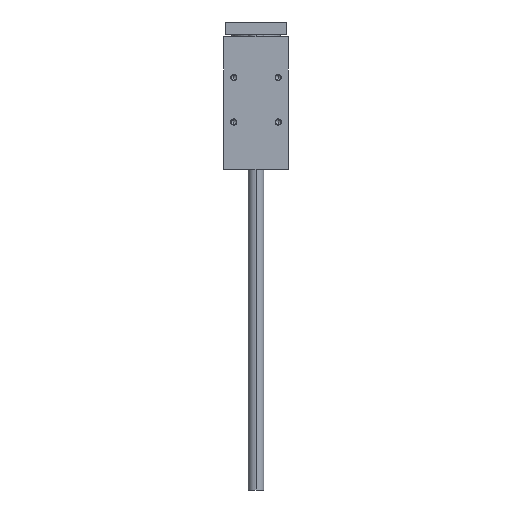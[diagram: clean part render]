
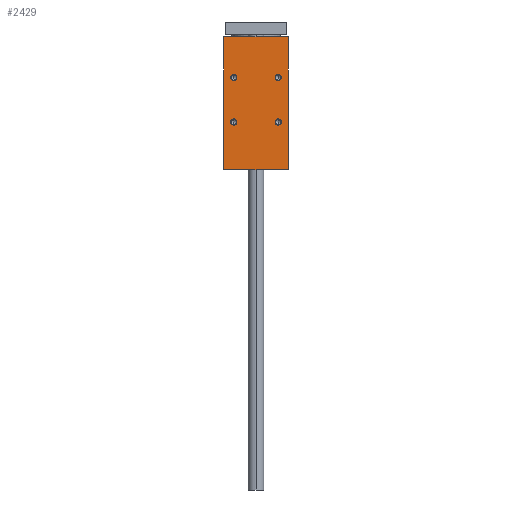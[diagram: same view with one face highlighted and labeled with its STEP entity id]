
A CAD part, left-side view. The second image highlights one B-rep face of the part: STEP entity #2429.
In plain terms, the highlighted planar face has unit normal (-1, 0, 0).
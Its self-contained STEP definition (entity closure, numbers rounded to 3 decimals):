
#27 = DIRECTION ( 'NONE',  ( 0., -1., 0. ) ) ;
#124 = VERTEX_POINT ( 'NONE', #1266 ) ;
#218 = CARTESIAN_POINT ( 'NONE',  ( -94.5, -52.5, -128. ) ) ;
#365 = CIRCLE ( 'NONE', #5190, 5. ) ;
#616 = DIRECTION ( 'NONE',  ( 0., 0., -1. ) ) ;
#637 = EDGE_LOOP ( 'NONE', ( #8313, #9549 ) ) ;
#677 = VECTOR ( 'NONE', #27, 1000. ) ;
#718 = AXIS2_PLACEMENT_3D ( 'NONE', #1889, #3437, #6404 ) ;
#734 = FACE_BOUND ( 'NONE', #6144, .T. ) ;
#845 = EDGE_CURVE ( 'NONE', #7976, #2127, #7794, .T. ) ;
#1044 = ORIENTED_EDGE ( 'NONE', *, *, #6875, .T. ) ;
#1266 = CARTESIAN_POINT ( 'NONE',  ( -94.5, -52.5, 87. ) ) ;
#1374 = EDGE_CURVE ( 'NONE', #3375, #9286, #3353, .T. ) ;
#1498 = ORIENTED_EDGE ( 'NONE', *, *, #9117, .T. ) ;
#1578 = CARTESIAN_POINT ( 'NONE',  ( -94.5, -36., -51. ) ) ;
#1601 = PLANE ( 'NONE',  #9238 ) ;
#1651 = AXIS2_PLACEMENT_3D ( 'NONE', #5904, #3608, #5132 ) ;
#1889 = CARTESIAN_POINT ( 'NONE',  ( -94.5, 36., -51. ) ) ;
#1964 = CARTESIAN_POINT ( 'NONE',  ( -94.5, 52.5, 87. ) ) ;
#1965 = CARTESIAN_POINT ( 'NONE',  ( -94.5, -36., 26. ) ) ;
#2022 = DIRECTION ( 'NONE',  ( 0., 0., -1. ) ) ;
#2121 = DIRECTION ( 'NONE',  ( 1., 0., 0. ) ) ;
#2127 = VERTEX_POINT ( 'NONE', #6198 ) ;
#2205 = DIRECTION ( 'NONE',  ( 0., 0., 1. ) ) ;
#2250 = CIRCLE ( 'NONE', #4900, 5. ) ;
#2258 = VERTEX_POINT ( 'NONE', #5576 ) ;
#2429 = ADVANCED_FACE ( 'NONE', ( #7395, #8995, #5980, #9037, #734 ), #1601, .F. ) ;
#2652 = ORIENTED_EDGE ( 'NONE', *, *, #3560, .T. ) ;
#2708 = CARTESIAN_POINT ( 'NONE',  ( -94.5, -36., 21. ) ) ;
#2821 = LINE ( 'NONE', #8072, #677 ) ;
#2830 = CARTESIAN_POINT ( 'NONE',  ( -94.5, 36., -51. ) ) ;
#2833 = AXIS2_PLACEMENT_3D ( 'NONE', #5171, #2121, #3606 ) ;
#2889 = LINE ( 'NONE', #6636, #3169 ) ;
#3118 = DIRECTION ( 'NONE',  ( 1., 0., 0. ) ) ;
#3166 = DIRECTION ( 'NONE',  ( 0., 0., -1. ) ) ;
#3169 = VECTOR ( 'NONE', #2205, 1000. ) ;
#3302 = ORIENTED_EDGE ( 'NONE', *, *, #4524, .T. ) ;
#3353 = LINE ( 'NONE', #3924, #6583 ) ;
#3356 = CIRCLE ( 'NONE', #1651, 5. ) ;
#3375 = VERTEX_POINT ( 'NONE', #4308 ) ;
#3437 = DIRECTION ( 'NONE',  ( 1., 0., 0. ) ) ;
#3560 = EDGE_CURVE ( 'NONE', #9032, #6659, #8589, .T. ) ;
#3599 = AXIS2_PLACEMENT_3D ( 'NONE', #1578, #4542, #7504 ) ;
#3604 = DIRECTION ( 'NONE',  ( 1., 0., 0. ) ) ;
#3606 = DIRECTION ( 'NONE',  ( 0., 0., -1. ) ) ;
#3608 = DIRECTION ( 'NONE',  ( 1., 0., 0. ) ) ;
#3629 = ORIENTED_EDGE ( 'NONE', *, *, #7363, .F. ) ;
#3924 = CARTESIAN_POINT ( 'NONE',  ( -94.5, 52.5, -128. ) ) ;
#4017 = EDGE_LOOP ( 'NONE', ( #1044, #6060 ) ) ;
#4072 = VERTEX_POINT ( 'NONE', #5352 ) ;
#4131 = EDGE_CURVE ( 'NONE', #7156, #8461, #365, .T. ) ;
#4308 = CARTESIAN_POINT ( 'NONE',  ( -94.5, 52.5, -128. ) ) ;
#4491 = CARTESIAN_POINT ( 'NONE',  ( -94.5, 36., 16. ) ) ;
#4524 = EDGE_CURVE ( 'NONE', #7943, #124, #2889, .T. ) ;
#4542 = DIRECTION ( 'NONE',  ( 1., 0., 0. ) ) ;
#4570 = CARTESIAN_POINT ( 'NONE',  ( -94.5, 52.5, -128. ) ) ;
#4900 = AXIS2_PLACEMENT_3D ( 'NONE', #5718, #6390, #2022 ) ;
#4926 = CIRCLE ( 'NONE', #718, 5. ) ;
#4933 = DIRECTION ( 'NONE',  ( 0., -1., 0. ) ) ;
#5001 = DIRECTION ( 'NONE',  ( 1., 0., 0. ) ) ;
#5085 = DIRECTION ( 'NONE',  ( 0., 0., -1. ) ) ;
#5132 = DIRECTION ( 'NONE',  ( 0., 0., -1. ) ) ;
#5171 = CARTESIAN_POINT ( 'NONE',  ( -94.5, 36., 21. ) ) ;
#5190 = AXIS2_PLACEMENT_3D ( 'NONE', #2708, #5001, #616 ) ;
#5352 = CARTESIAN_POINT ( 'NONE',  ( -94.5, 36., -56. ) ) ;
#5391 = CARTESIAN_POINT ( 'NONE',  ( -94.5, -36., -56. ) ) ;
#5576 = CARTESIAN_POINT ( 'NONE',  ( -94.5, 36., -46. ) ) ;
#5718 = CARTESIAN_POINT ( 'NONE',  ( -94.5, 36., 21. ) ) ;
#5904 = CARTESIAN_POINT ( 'NONE',  ( -94.5, -36., -51. ) ) ;
#5980 = FACE_BOUND ( 'NONE', #4017, .T. ) ;
#6060 = ORIENTED_EDGE ( 'NONE', *, *, #8068, .T. ) ;
#6134 = CIRCLE ( 'NONE', #8305, 5. ) ;
#6144 = EDGE_LOOP ( 'NONE', ( #7891, #2652 ) ) ;
#6185 = CARTESIAN_POINT ( 'NONE',  ( -94.5, -36., 21. ) ) ;
#6198 = CARTESIAN_POINT ( 'NONE',  ( -94.5, -36., -46. ) ) ;
#6217 = EDGE_LOOP ( 'NONE', ( #3302, #3629, #6344, #8351 ) ) ;
#6228 = EDGE_CURVE ( 'NONE', #3375, #7943, #2821, .T. ) ;
#6234 = EDGE_LOOP ( 'NONE', ( #1498, #6374 ) ) ;
#6344 = ORIENTED_EDGE ( 'NONE', *, *, #1374, .F. ) ;
#6374 = ORIENTED_EDGE ( 'NONE', *, *, #845, .T. ) ;
#6390 = DIRECTION ( 'NONE',  ( 1., 0., 0. ) ) ;
#6404 = DIRECTION ( 'NONE',  ( 0., 0., -1. ) ) ;
#6583 = VECTOR ( 'NONE', #9090, 1000. ) ;
#6636 = CARTESIAN_POINT ( 'NONE',  ( -94.5, -52.5, -128. ) ) ;
#6659 = VERTEX_POINT ( 'NONE', #6726 ) ;
#6726 = CARTESIAN_POINT ( 'NONE',  ( -94.5, 36., 26. ) ) ;
#6837 = EDGE_CURVE ( 'NONE', #6659, #9032, #2250, .T. ) ;
#6875 = EDGE_CURVE ( 'NONE', #2258, #4072, #7375, .T. ) ;
#7057 = CARTESIAN_POINT ( 'NONE',  ( -94.5, -36., 16. ) ) ;
#7156 = VERTEX_POINT ( 'NONE', #7057 ) ;
#7256 = EDGE_CURVE ( 'NONE', #8461, #7156, #6134, .T. ) ;
#7363 = EDGE_CURVE ( 'NONE', #9286, #124, #8619, .T. ) ;
#7375 = CIRCLE ( 'NONE', #8769, 5. ) ;
#7395 = FACE_OUTER_BOUND ( 'NONE', #6217, .T. ) ;
#7504 = DIRECTION ( 'NONE',  ( 0., 0., -1. ) ) ;
#7535 = DIRECTION ( 'NONE',  ( 0., 1., 0. ) ) ;
#7794 = CIRCLE ( 'NONE', #3599, 5. ) ;
#7891 = ORIENTED_EDGE ( 'NONE', *, *, #6837, .T. ) ;
#7943 = VERTEX_POINT ( 'NONE', #218 ) ;
#7976 = VERTEX_POINT ( 'NONE', #5391 ) ;
#8068 = EDGE_CURVE ( 'NONE', #4072, #2258, #4926, .T. ) ;
#8072 = CARTESIAN_POINT ( 'NONE',  ( -94.5, 52.5, -128. ) ) ;
#8166 = DIRECTION ( 'NONE',  ( 1., 0., 0. ) ) ;
#8305 = AXIS2_PLACEMENT_3D ( 'NONE', #6185, #3118, #3166 ) ;
#8313 = ORIENTED_EDGE ( 'NONE', *, *, #7256, .T. ) ;
#8351 = ORIENTED_EDGE ( 'NONE', *, *, #6228, .T. ) ;
#8461 = VERTEX_POINT ( 'NONE', #1965 ) ;
#8589 = CIRCLE ( 'NONE', #2833, 5. ) ;
#8619 = LINE ( 'NONE', #1964, #8934 ) ;
#8769 = AXIS2_PLACEMENT_3D ( 'NONE', #2830, #3604, #5085 ) ;
#8934 = VECTOR ( 'NONE', #4933, 1000. ) ;
#8995 = FACE_BOUND ( 'NONE', #6234, .T. ) ;
#9032 = VERTEX_POINT ( 'NONE', #4491 ) ;
#9037 = FACE_BOUND ( 'NONE', #637, .T. ) ;
#9090 = DIRECTION ( 'NONE',  ( 0., 0., 1. ) ) ;
#9117 = EDGE_CURVE ( 'NONE', #2127, #7976, #3356, .T. ) ;
#9238 = AXIS2_PLACEMENT_3D ( 'NONE', #4570, #8166, #7535 ) ;
#9254 = CARTESIAN_POINT ( 'NONE',  ( -94.5, 52.5, 87. ) ) ;
#9286 = VERTEX_POINT ( 'NONE', #9254 ) ;
#9549 = ORIENTED_EDGE ( 'NONE', *, *, #4131, .T. ) ;
